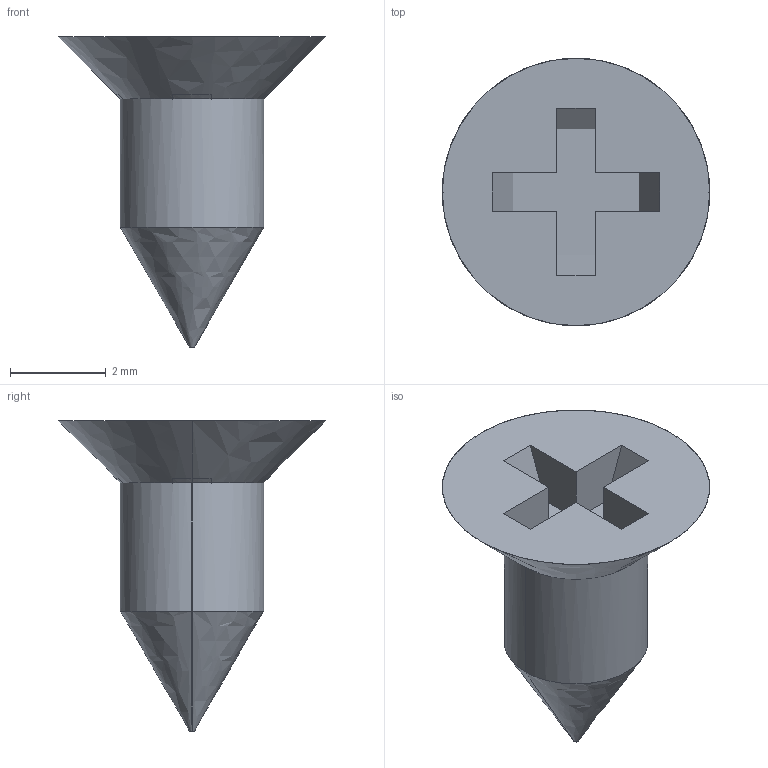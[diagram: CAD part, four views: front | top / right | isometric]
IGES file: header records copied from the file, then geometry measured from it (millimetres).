
Start section: SolidWorks IGES file using analytic representation for surfaces
Global section: file name: C:\Users\AndreBernot\Downloads\K-RACER-L_3D_SW\K-RACER-L_3D_SW\VIS TF 3 X 6.5.IGS; native system: SolidWorks 2015; preprocessor: SolidWorks 2015; author: AndreBernot; date: 170922.151834; units: millimetre
Bounding box: 5.6 x 5.6 x 6.5 mm (x, y, z)
Surface area: 107 mm2 (no closed solid volume)
Topology: 0 solids, 0 shells, 34 faces, 255 edges, 255 vertices
Faces by surface type: bspline 23, revolution 11
